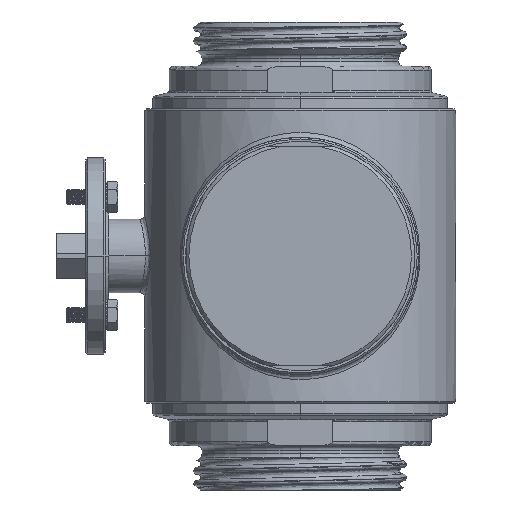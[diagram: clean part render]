
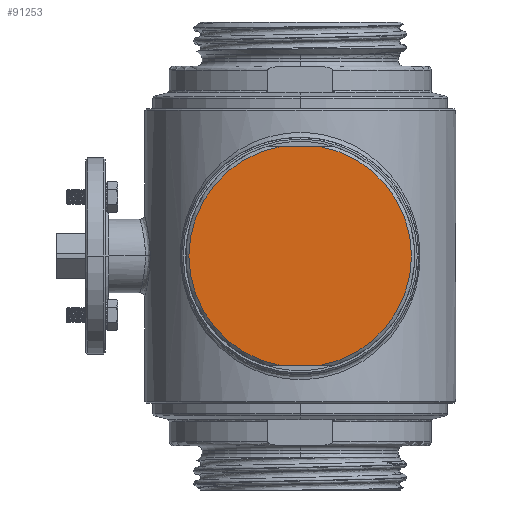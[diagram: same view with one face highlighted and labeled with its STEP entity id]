
A CAD part, left-side view. The second image highlights one B-rep face of the part: STEP entity #91253.
In plain terms, the highlighted planar face has unit normal (-1, 0, 0).
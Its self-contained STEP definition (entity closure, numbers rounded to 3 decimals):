
#47581=DIRECTION('',(0.,-1.,0.));
#47582=VECTOR('',#47581,23.238);
#47583=CARTESIAN_POINT('',(-120.,11.619,67.));
#47584=LINE('',#47583,#47582);
#47588=DIRECTION('',(0.,-1.,0.));
#47589=VECTOR('',#47588,23.238);
#47590=CARTESIAN_POINT('',(-120.,11.619,-67.));
#47591=LINE('',#47590,#47589);
#47603=CARTESIAN_POINT('',(-120.,0.,0.));
#47604=DIRECTION('',(-1.,0.,0.));
#47605=DIRECTION('',(0.,-0.171,-0.985));
#47606=AXIS2_PLACEMENT_3D('',#47603,#47604,#47605);
#47668=CARTESIAN_POINT('',(-120.,0.,0.));
#47669=DIRECTION('',(-1.,0.,0.));
#47670=DIRECTION('',(0.,0.171,0.985));
#47671=AXIS2_PLACEMENT_3D('',#47668,#47669,#47670);
#51036=CARTESIAN_POINT('',(-120.,11.619,67.));
#51037=CARTESIAN_POINT('',(-120.,-11.619,67.));
#51038=VERTEX_POINT('',#51036);
#51039=VERTEX_POINT('',#51037);
#51040=CARTESIAN_POINT('',(-120.,11.619,-67.));
#51041=CARTESIAN_POINT('',(-120.,-11.619,-67.));
#51042=VERTEX_POINT('',#51040);
#51043=VERTEX_POINT('',#51041);
#91239=CARTESIAN_POINT('',(-120.,0.,0.));
#91240=DIRECTION('',(-1.,0.,0.));
#91241=DIRECTION('',(0.,0.,-1.));
#91242=AXIS2_PLACEMENT_3D('',#91239,#91240,#91241);
#91243=PLANE('',#91242);
#91244=ORIENTED_EDGE('',*,*,#91227,.T.);
#91246=ORIENTED_EDGE('',*,*,#91245,.F.);
#91248=ORIENTED_EDGE('',*,*,#91247,.F.);
#91250=ORIENTED_EDGE('',*,*,#91249,.F.);
#91251=EDGE_LOOP('',(#91244,#91246,#91248,#91250));
#91252=FACE_OUTER_BOUND('',#91251,.F.);
#91253=ADVANCED_FACE('',(#91252),#91243,.T.);
#47607=CIRCLE('',#47606,68.);
#47672=CIRCLE('',#47671,68.);
#91227=EDGE_CURVE('',#51038,#51039,#47584,.T.);
#91245=EDGE_CURVE('',#51043,#51039,#47607,.T.);
#91247=EDGE_CURVE('',#51042,#51043,#47591,.T.);
#91249=EDGE_CURVE('',#51038,#51042,#47672,.T.);
